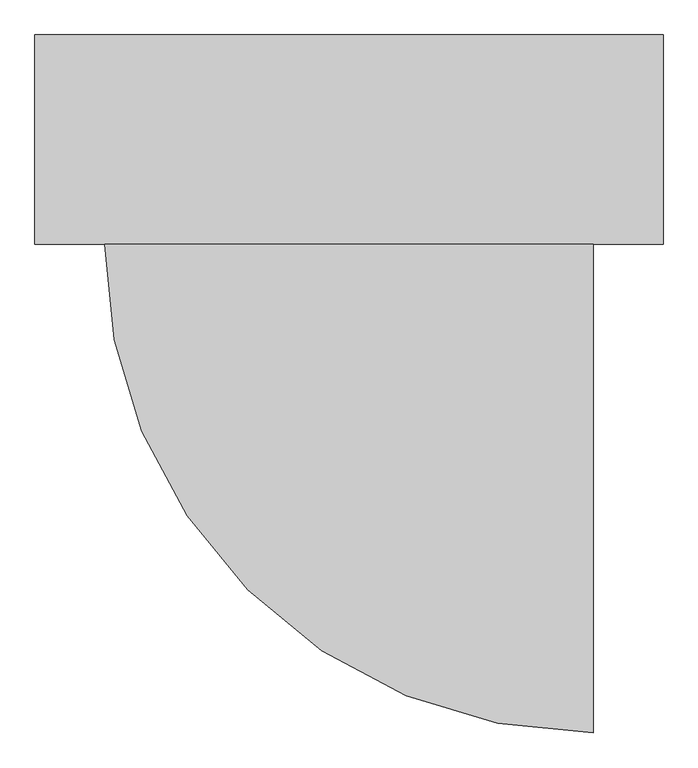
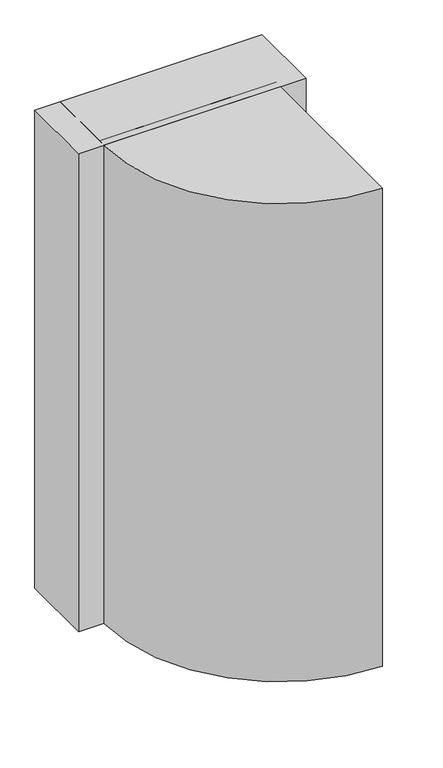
"""IFC4 building model written with IfcOpenShell, lengths in millimetres: electric distribution board geometry, 20800_分電盤 : 右扉."""

from ifc_helpers import new_model, si_unit, point, frame, frame_2d, origin, place, context, project, spatial, polyline, circle_curve, trimmed, segment, composite_curve, outline, extrude, faceted_brep, source, transform, mapped, element, save


def electric_distribution_board_7d68dc5e(model_context):
    return source(origin(), model_context, "Body", "SolidModel", [
        extrude(outline(composite_curve([segment(polyline([(350.0, -350.0), (350.0, -1050.0095225)]), True, "CONTINUOUS"), segment(trimmed(circle_curve(frame_2d((350.0095226, -350.0)), 700.0095226), [point((350.0, -1050.0095225))], [point((-350.0, -350.0))], False, "CARTESIAN"), True, "CONTINUOUS"), segment(polyline([(-350.0, -350.0), (350.0, -350.0)]), True, "CONTINUOUS")], self_intersect=False)), frame((0.0, 0.0, 100.0), z_axis=(0.0, 0.0, 1.0), x_axis=(1.0, 0.0, 0.0)), (0.0, 0.0, 1.0), 2000.0),
        extrude(outline(polyline([(450.0, -350.0), (-450.0, -350.0), (-450.0, -50.0), (450.0, -50.0), (450.0, -350.0)])), frame((0.0, 0.0, 100.0), z_axis=(0.0, 0.0, 1.0), x_axis=(1.0, 0.0, 0.0)), (0.0, 0.0, 1.0), 2000.0),
        faceted_brep([(350.0, -350.0, 2100.0), (350.0, -320.0, 2100.0), (-350.0, -320.0, 2100.0), (-350.0, -350.0, 2100.0), (350.0, -350.0, 200.0), (-350.0, -350.0, 200.0), (-350.0, -320.0, 200.0), (350.0, -320.0, 200.0), (-280.0, -350.0, 1130.0), (-280.0, -350.0, 1070.0), (-300.0, -350.0, 1070.0), (-300.0, -350.0, 1130.0), (-280.0, -330.0, 1070.0), (-280.0, -330.0, 1130.0), (-300.0, -330.0, 1130.0), (-300.0, -330.0, 1070.0)], [[[0, 1, 2, 3]], [[4, 5, 6, 7]], [[1, 0, 4, 7]], [[2, 1, 7, 6]], [[3, 2, 6, 5]], [[0, 3, 5, 4], [8, 9, 10, 11]], [[12, 13, 14, 15]], [[13, 12, 9, 8]], [[14, 13, 8, 11]], [[15, 14, 11, 10]], [[12, 15, 10, 9]]]),
        faceted_brep([(-350.0, -50.0, 200.0), (350.0, -50.0, 200.0), (350.0, -320.0, 200.0), (330.0, -320.0, 200.0), (330.0, -70.0, 200.0), (-330.0, -70.0, 200.0), (-330.0, -320.0, 200.0), (-350.0, -320.0, 200.0), (-350.0, -320.0, 2100.0), (-350.0, -50.0, 2100.0), (-330.0, -320.0, 2080.0), (330.0, -320.0, 2080.0), (350.0, -320.0, 2100.0), (-330.0, -70.0, 2080.0), (330.0, -70.0, 2080.0), (350.0, -50.0, 2100.0)], [[[0, 1, 2, 3, 4, 5, 6, 7]], [[0, 7, 8, 9]], [[8, 7, 6, 10, 11, 3, 2, 12]], [[6, 5, 13, 10]], [[5, 4, 14, 13]], [[4, 3, 11, 14]], [[12, 2, 1, 15]], [[15, 1, 0, 9]], [[12, 15, 9, 8]], [[11, 10, 13, 14]]]),
        extrude(outline(polyline([(350.0, -320.0), (-350.0, -320.0), (-350.0, -50.0), (350.0, -50.0), (350.0, -320.0)])), frame((0.0, 0.0, 100.0), z_axis=(0.0, 0.0, 1.0), x_axis=(1.0, 0.0, 0.0)), (0.0, 0.0, 1.0), 100.0),
    ])


if __name__ == "__main__":
    model = new_model("IFC4")
    model_context = context("Model", 3, world=origin())
    ifc_project = project(units=[si_unit("LENGTHUNIT", "METRE", prefix="MILLI")], contexts=[model_context])
    site = spatial("IfcSite", under=ifc_project)
    building = spatial("IfcBuilding", under=site)
    placement = place(None, origin())
    electric_distribution_board_shape = electric_distribution_board_7d68dc5e(model_context)
    element("IfcElectricDistributionBoard", 1, ObjectType="20800_分電盤 : 右扉", at=placement, inside=building, context=model_context, shape_type="MappedRepresentation", body=[
        mapped(electric_distribution_board_shape, transform((0.0, 0.0, 0.0), x_axis=(1.0, 0.0, 0.0), y_axis=(0.0, 1.0, 0.0), z_axis=(0.0, 0.0, 1.0))),
    ])
    save(model, "model.ifc")
